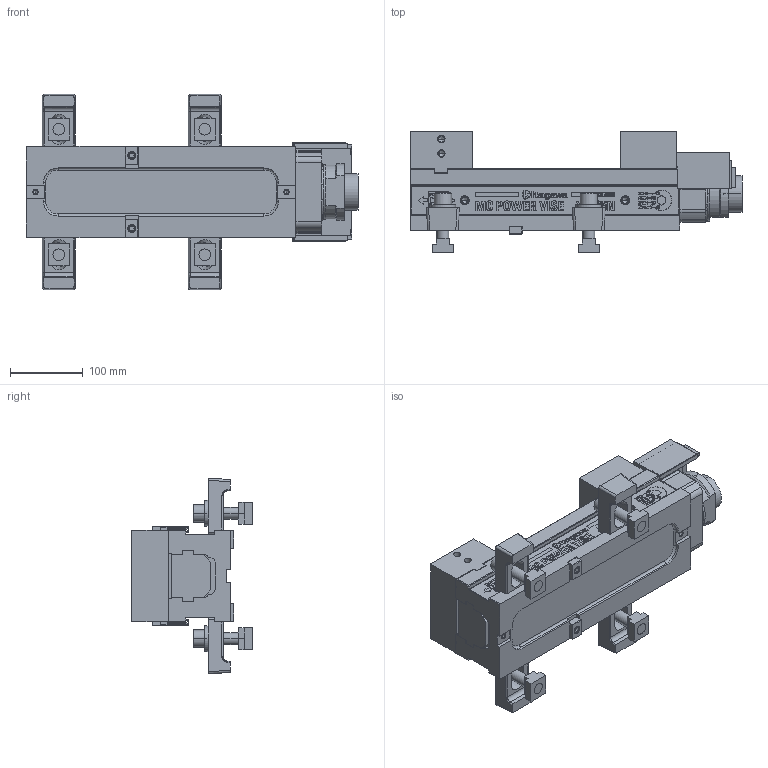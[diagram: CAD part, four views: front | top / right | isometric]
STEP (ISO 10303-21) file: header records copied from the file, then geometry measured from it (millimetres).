
FILE_DESCRIPTION (( 'STEP AP214' ), '1' );
FILE_NAME ('VE125N_O.STEP', '2023-08-04T05:26:54', ( '' ), ( '' ), 'SwSTEP 2.0', 'SolidWorks 2020', '' );
FILE_SCHEMA (( 'AUTOMOTIVE_DESIGN' ));
Length unit declared in the file: millimetre
Products named in the file (20): ガイドブロック(61M4197783); クランプクミタテ(61M420565); 僗儔僀僪僇僶乕Z(61M3523293)VE125L; 僕儑乕俵(61M3963740)VE125N; VE125N_O; Bアナツキ M16×65; T僗儘僢僩僫僢僩俿俶俵侾俉侾俇; リボルバ部; 僒僀僪僔乕儖R(61M8169380); エンドカバー(61M4224142)VQ125A; ボデー(61M2367002)VE125; クランプ(61M3159626)VP160; 僗儔僀僪僇僶乕X(61M352327)VE125; カバーリング(61M4399252)VE160N; 僕儑乕俥(61M3963730)VE125N; VE125Nホンタイ; 僒僀僪僔乕儖L(61M8169390); スプリングケース(61M3522051); 儚僢僔儍丂16乮61M4266330乯; 僗儔僀僪僇僶乕Y(61M3523283)VE125
Assembly tree (23 placements, depth 3):
  VE125N_O
    VE125Nホンタイ
      ボデー(61M2367002)VE125
      僕儑乕俥(61M3963730)VE125N
      僕儑乕俵(61M3963740)VE125N
      スプリングケース(61M3522051)
      カバーリング(61M4399252)VE160N
      リボルバ部
      ガイドブロック(61M4197783)  x2
      僗儔僀僪僇僶乕X(61M352327)VE125
      僗儔僀僪僇僶乕Y(61M3523283)VE125
      僗儔僀僪僇僶乕Z(61M3523293)VE125L
      エンドカバー(61M4224142)VQ125A
      僒僀僪僔乕儖L(61M8169390)
      僒僀僪僔乕儖R(61M8169380)
    クランプクミタテ(61M420565)  x4
      クランプ(61M3159626)VP160
      儚僢僔儍丂16乮61M4266330乯
      Bアナツキ M16×65
      T僗儘僢僩僫僢僩俿俶俵侾俉侾俇
Bounding box: 455 x 165 x 268 mm (x, y, z)
Volume: 5558738 mm3; surface area: 621269 mm2
Topology: 30 solids, 30 shells, 1172 faces, 6720 edges, 5887 vertices
Faces by surface type: plane 803, cylinder 266, cone 79, bspline 13, torus 11
Entity records: 70973 total; most frequent: CARTESIAN_POINT 16445, ORIENTED_EDGE 12354, DIRECTION 8253, EDGE_CURVE 6177, VERTEX_POINT 5557, VECTOR 5239, LINE 5239, AXIS2_PLACEMENT_3D 1507
